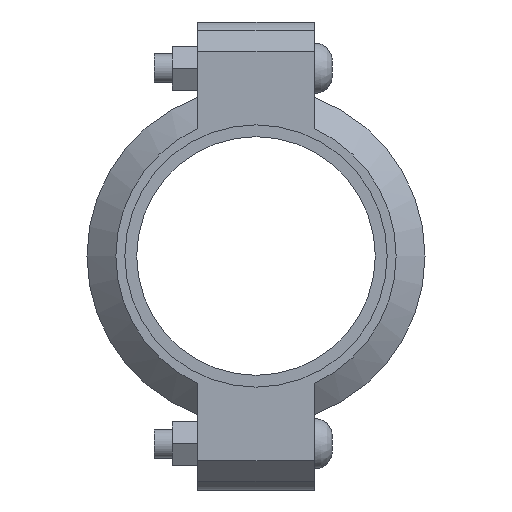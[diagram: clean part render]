
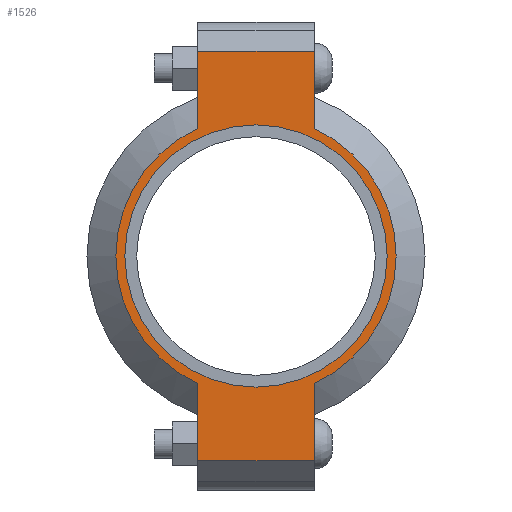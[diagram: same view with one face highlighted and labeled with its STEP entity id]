
A CAD part, left-side view. The second image highlights one B-rep face of the part: STEP entity #1526.
In plain terms, the highlighted planar face has unit normal (-1, 0, 0) as drawn and (0, 0, 1) by its records, which use the part's own axes.
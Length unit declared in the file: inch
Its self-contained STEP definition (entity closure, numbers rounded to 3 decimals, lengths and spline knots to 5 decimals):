
#150=LINE('',#2672,#243);
#158=LINE('',#2708,#251);
#165=LINE('',#2729,#258);
#174=LINE('',#2761,#267);
#175=LINE('',#2765,#268);
#176=LINE('',#2767,#269);
#243=VECTOR('',#2184,0.3937);
#251=VECTOR('',#2200,0.3937);
#258=VECTOR('',#2219,0.3937);
#267=VECTOR('',#2244,0.3937);
#268=VECTOR('',#2249,0.3937);
#269=VECTOR('',#2250,0.3937);
#325=FACE_BOUND('',#503,.T.);
#397=FACE_OUTER_BOUND('',#502,.T.);
#502=EDGE_LOOP('',(#1267,#1268,#1269,#1270,#1271,#1272,#1273,#1274));
#503=EDGE_LOOP('',(#1275));
#575=CIRCLE('',#1754,2.25);
#601=CIRCLE('',#1813,2.405);
#602=CIRCLE('',#1814,2.405);
#667=VERTEX_POINT('',#2488);
#710=VERTEX_POINT('',#2669);
#711=VERTEX_POINT('',#2671);
#722=VERTEX_POINT('',#2703);
#723=VERTEX_POINT('',#2707);
#730=VERTEX_POINT('',#2726);
#731=VERTEX_POINT('',#2728);
#741=VERTEX_POINT('',#2764);
#742=VERTEX_POINT('',#2766);
#823=EDGE_CURVE('',#667,#667,#575,.T.);
#884=EDGE_CURVE('',#711,#710,#150,.T.);
#898=EDGE_CURVE('',#723,#722,#158,.T.);
#908=EDGE_CURVE('',#731,#730,#165,.T.);
#923=EDGE_CURVE('',#723,#710,#174,.T.);
#924=EDGE_CURVE('',#722,#731,#601,.T.);
#925=EDGE_CURVE('',#741,#730,#175,.T.);
#926=EDGE_CURVE('',#741,#742,#176,.T.);
#927=EDGE_CURVE('',#742,#711,#602,.T.);
#1267=ORIENTED_EDGE('',*,*,#923,.F.);
#1268=ORIENTED_EDGE('',*,*,#898,.T.);
#1269=ORIENTED_EDGE('',*,*,#924,.T.);
#1270=ORIENTED_EDGE('',*,*,#908,.T.);
#1271=ORIENTED_EDGE('',*,*,#925,.F.);
#1272=ORIENTED_EDGE('',*,*,#926,.T.);
#1273=ORIENTED_EDGE('',*,*,#927,.T.);
#1274=ORIENTED_EDGE('',*,*,#884,.T.);
#1275=ORIENTED_EDGE('',*,*,#823,.T.);
#1368=PLANE('',#1812);
#1526=ADVANCED_FACE('',(#397,#325),#1368,.T.);
#1754=AXIS2_PLACEMENT_3D('',#2490,#2060,#2061);
#1812=AXIS2_PLACEMENT_3D('',#2762,#2245,#2246);
#1813=AXIS2_PLACEMENT_3D('',#2763,#2247,#2248);
#1814=AXIS2_PLACEMENT_3D('',#2768,#2251,#2252);
#2060=DIRECTION('center_axis',(0.,0.,-1.));
#2061=DIRECTION('ref_axis',(1.,0.,0.));
#2184=DIRECTION('',(1.,0.,0.));
#2200=DIRECTION('',(-1.,0.,0.));
#2219=DIRECTION('',(-1.,0.,0.));
#2244=DIRECTION('',(0.,-1.,0.));
#2245=DIRECTION('center_axis',(0.,0.,1.));
#2246=DIRECTION('ref_axis',(-1.,0.,0.));
#2247=DIRECTION('center_axis',(0.,0.,1.));
#2248=DIRECTION('ref_axis',(1.,0.,0.));
#2249=DIRECTION('',(0.,1.,0.));
#2250=DIRECTION('',(1.,0.,0.));
#2251=DIRECTION('center_axis',(0.,0.,1.));
#2252=DIRECTION('ref_axis',(1.,0.,0.));
#2488=CARTESIAN_POINT('',(-2.25,0.,1.065));
#2490=CARTESIAN_POINT('Origin',(0.,0.,1.065));
#2669=CARTESIAN_POINT('',(3.515,-1.,1.065));
#2671=CARTESIAN_POINT('',(2.18724,-1.,1.065));
#2672=CARTESIAN_POINT('',(4.015,-1.,1.065));
#2703=CARTESIAN_POINT('',(2.18724,1.,1.065));
#2707=CARTESIAN_POINT('',(3.515,1.,1.065));
#2708=CARTESIAN_POINT('',(-4.015,1.,1.065));
#2726=CARTESIAN_POINT('',(-3.515,1.,1.065));
#2728=CARTESIAN_POINT('',(-2.18724,1.,1.065));
#2729=CARTESIAN_POINT('',(-4.015,1.,1.065));
#2761=CARTESIAN_POINT('',(3.515,-0.5,1.065));
#2762=CARTESIAN_POINT('Origin',(0.,0.,
1.065));
#2763=CARTESIAN_POINT('Origin',(0.,0.,1.065));
#2764=CARTESIAN_POINT('',(-3.515,-1.,1.065));
#2765=CARTESIAN_POINT('',(-3.515,0.5,1.065));
#2766=CARTESIAN_POINT('',(-2.18724,-1.,1.065));
#2767=CARTESIAN_POINT('',(4.015,-1.,1.065));
#2768=CARTESIAN_POINT('Origin',(0.,0.,1.065));
